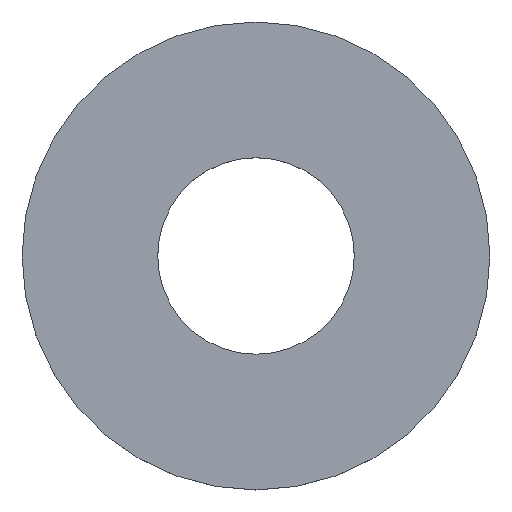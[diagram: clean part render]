
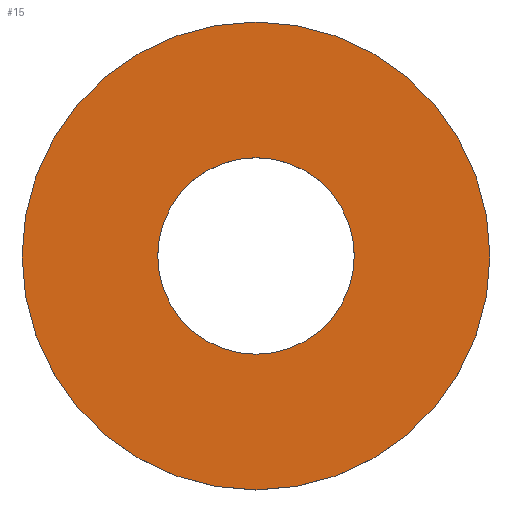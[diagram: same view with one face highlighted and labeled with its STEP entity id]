
A CAD part, top view. The second image highlights one B-rep face of the part: STEP entity #15.
In plain terms, the highlighted planar face has unit normal (0, 0, 1).
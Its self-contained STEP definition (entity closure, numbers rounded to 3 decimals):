
#7 = DIRECTION ( 'NONE',  ( 0., 0., 1. ) ) ;
#8 = CARTESIAN_POINT ( 'NONE',  ( -5.25, 0., 0.75 ) ) ;
#9 = AXIS2_PLACEMENT_3D ( 'NONE', #228, #138, #132 ) ;
#11 = ORIENTED_EDGE ( 'NONE', *, *, #145, .F. ) ;
#15 = ADVANCED_FACE ( 'NONE', ( #57, #88 ), #102, .T. ) ;
#21 = DIRECTION ( 'NONE',  ( 1., 0., 0. ) ) ;
#31 = VERTEX_POINT ( 'NONE', #149 ) ;
#34 = ORIENTED_EDGE ( 'NONE', *, *, #163, .T. ) ;
#39 = CARTESIAN_POINT ( 'NONE',  ( 5.25, 0., 0.75 ) ) ;
#42 = CARTESIAN_POINT ( 'NONE',  ( 0., 0., 0.75 ) ) ;
#50 = ORIENTED_EDGE ( 'NONE', *, *, #186, .F. ) ;
#51 = CIRCLE ( 'NONE', #9, 12.5 ) ;
#57 = FACE_OUTER_BOUND ( 'NONE', #100, .T. ) ;
#61 = AXIS2_PLACEMENT_3D ( 'NONE', #235, #134, #21 ) ;
#72 = DIRECTION ( 'NONE',  ( 1., 0., 0. ) ) ;
#88 = FACE_BOUND ( 'NONE', #128, .T. ) ;
#95 = DIRECTION ( 'NONE',  ( 1., 0., 0. ) ) ;
#100 = EDGE_LOOP ( 'NONE', ( #180, #34 ) ) ;
#102 = PLANE ( 'NONE',  #218 ) ;
#103 = DIRECTION ( 'NONE',  ( 0., 0., 1. ) ) ;
#116 = AXIS2_PLACEMENT_3D ( 'NONE', #42, #7, #232 ) ;
#128 = EDGE_LOOP ( 'NONE', ( #11, #50 ) ) ;
#130 = EDGE_CURVE ( 'NONE', #31, #178, #193, .T. ) ;
#132 = DIRECTION ( 'NONE',  ( 1., 0., 0. ) ) ;
#134 = DIRECTION ( 'NONE',  ( 0., 0., 1. ) ) ;
#138 = DIRECTION ( 'NONE',  ( 0., 0., 1. ) ) ;
#139 = CARTESIAN_POINT ( 'NONE',  ( 0., 0., 0.75 ) ) ;
#145 = EDGE_CURVE ( 'NONE', #152, #241, #236, .T. ) ;
#149 = CARTESIAN_POINT ( 'NONE',  ( -12.5, 0., 0.75 ) ) ;
#152 = VERTEX_POINT ( 'NONE', #8 ) ;
#163 = EDGE_CURVE ( 'NONE', #178, #31, #51, .T. ) ;
#178 = VERTEX_POINT ( 'NONE', #249 ) ;
#180 = ORIENTED_EDGE ( 'NONE', *, *, #130, .T. ) ;
#186 = EDGE_CURVE ( 'NONE', #241, #152, #216, .T. ) ;
#187 = CARTESIAN_POINT ( 'NONE',  ( 0., 0., 0.75 ) ) ;
#193 = CIRCLE ( 'NONE', #116, 12.5 ) ;
#196 = AXIS2_PLACEMENT_3D ( 'NONE', #139, #103, #72 ) ;
#216 = CIRCLE ( 'NONE', #61, 5.25 ) ;
#218 = AXIS2_PLACEMENT_3D ( 'NONE', #187, #247, #95 ) ;
#228 = CARTESIAN_POINT ( 'NONE',  ( 0., 0., 0.75 ) ) ;
#232 = DIRECTION ( 'NONE',  ( 1., 0., 0. ) ) ;
#235 = CARTESIAN_POINT ( 'NONE',  ( 0., 0., 0.75 ) ) ;
#236 = CIRCLE ( 'NONE', #196, 5.25 ) ;
#241 = VERTEX_POINT ( 'NONE', #39 ) ;
#247 = DIRECTION ( 'NONE',  ( 0., 0., 1. ) ) ;
#249 = CARTESIAN_POINT ( 'NONE',  ( 12.5, 0., 0.75 ) ) ;
